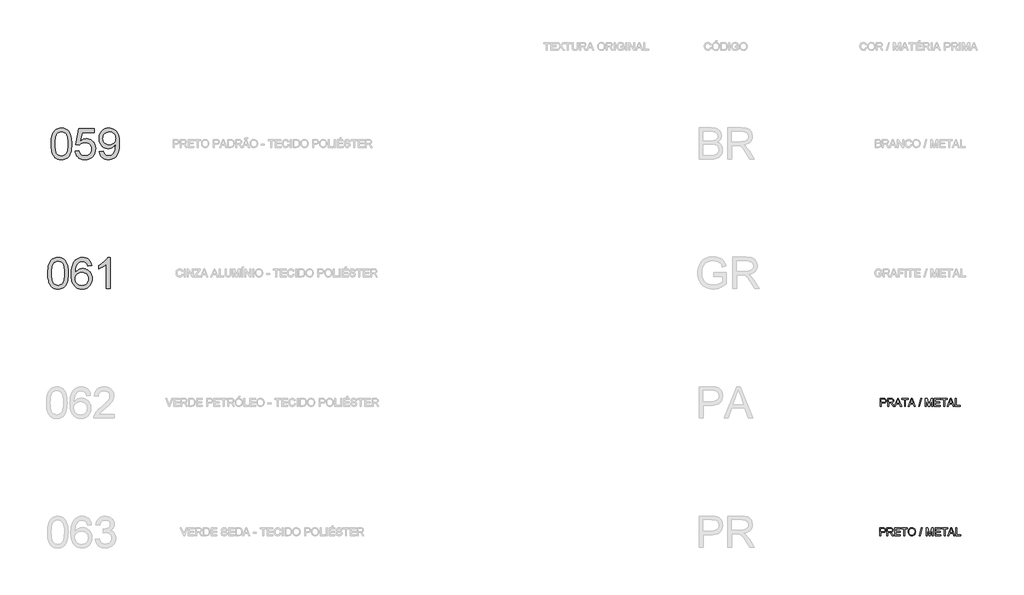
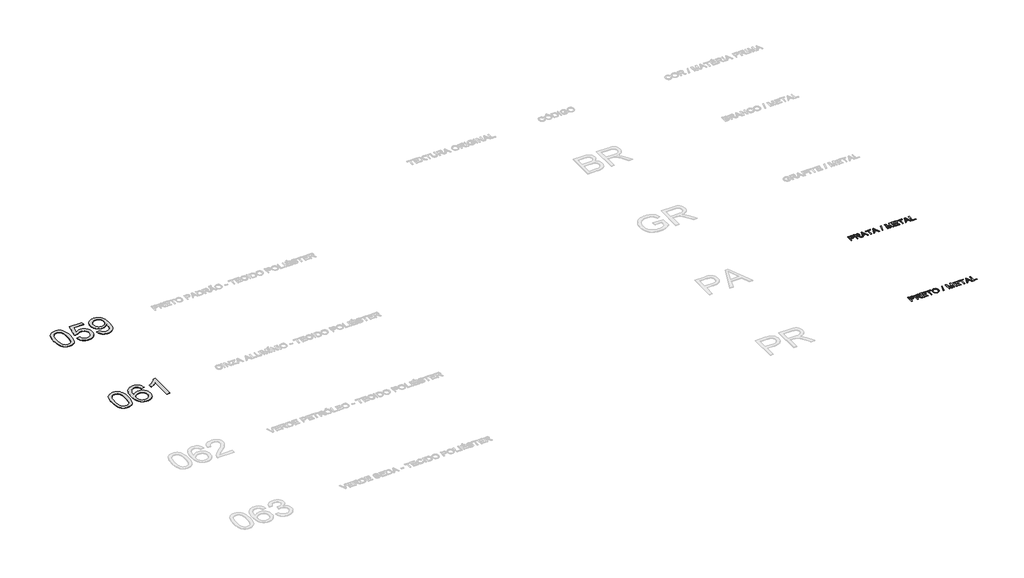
# One storey, part 43 of 67: 4 proxies.
"""IFC4 building model written with IfcOpenShell, lengths in millimetres."""

from ifc_helpers import new_model, si_unit, origin, origin_with_axes, place, context, project, spatial, polyline, outline, extrude, element, save

model = new_model("IFC4")

# Units and contexts
model_context = context("Model", 3, world=origin())
ifc_project = project(units=[si_unit("LENGTHUNIT", "METRE", prefix="MILLI")], contexts=[model_context])

# Site, building, storey
site = spatial("IfcSite", under=ifc_project)
building = spatial("IfcBuilding", under=site)
storey = spatial("IfcBuildingStorey", under=building, Name="Marelli - Linha COLAB - Planta Baixa", Elevation=0.0)

# Proxies
placement = place(None, origin())
element("IfcBuildingElementProxy", 1, Name="1200mm Arial", ObjectType="1200mm Arial", at=placement, inside=storey, context=model_context, shape_type="SweptSolid", body=[
    extrude(outline(polyline([(-134.0424838, -57395.792664), (-131.2741718, -57294.4319773), (-122.9692358, -57202.8385576), (-109.1276757, -57121.0124048), (-89.7494916, -57048.953519), (-64.9174569, -56986.073289), (-34.7143451, -56931.7831035), (0.8598438, -56886.0829627), (41.8051099, -56848.9728664), (88.2594088, -56820.2596767), (140.3606964, -56799.7502555), (198.1089726, -56787.4446027), (261.5042374, -56783.3427185), (309.1449558, -56785.7707396), (354.357653, -56793.0548031), (397.142329, -56805.194909), (437.4989839, -56822.1910572), (474.4527303, -56843.7581391), (507.028681, -56869.6110463), (535.2268359, -56899.7497788), (559.0471951, -56934.1743365), (579.685375, -56972.7467637), (598.3369922, -57015.3291046), (629.6805382, -57112.5235278), (641.6550971, -57169.6831928), (650.2083535, -57235.9479371), (655.3403073, -57311.3177609), (657.0509586, -57395.792664), (654.3102377, -57496.5095573), (646.0880752, -57587.6431245), (632.3844708, -57669.1933658), (613.1994248, -57741.1602811), (588.5605282, -57804.0681023), (558.4953721, -57858.4410612), (523.0039566, -57904.2791578), (482.0862817, -57941.5823921), (435.5768005, -57970.4887199), (383.309966, -57991.1360968), (325.2857783, -58003.524523), (261.5042374, -58007.6539984), (218.829926, -58005.8605737), (178.5100593, -58000.4802995), (140.5446374, -57991.5131759), (104.9336602, -57978.9592028), (71.6771279, -57962.8183803), (40.7750403, -57943.0907083), (12.2273975, -57919.7761868), (-13.9658006, -57892.8748159), (-42.1087732, -57850.2786794), (-66.4993495, -57802.0999336), (-87.1375294, -57748.3385785), (-104.023313, -57688.9946142), (-117.1567002, -57624.0680406), (-126.5376911, -57553.5588577), (-132.1662856, -57477.4670655), (-134.0424838, -57395.792664)]), holes=[polyline([(16.6419814, -57395.4983584), (21.0565653, -57526.4919399), (34.3003172, -57632.5247279), (44.233131, -57676.1808245), (56.3732369, -57713.5967226), (70.7206347, -57744.7724225), (87.2753245, -57769.7079239), (124.6521352, -57807.884878), (166.1492242, -57835.1541309), (211.7665916, -57851.5156826), (261.5042374, -57856.9695332), (311.2418831, -57851.4972885), (356.8592505, -57835.0805545), (398.3563396, -57807.7193311), (435.7331503, -57769.4136183), (452.2878401, -57744.418336), (466.6352379, -57713.2104465), (478.7753437, -57675.7899498), (488.7081576, -57632.1568459), (501.9519094, -57526.2528166), (506.3664934, -57395.4983584), (502.0990622, -57267.9720648), (489.2967688, -57163.8062779), (479.6950487, -57120.4835744), (467.9596131, -57083.0009976), (454.0904619, -57051.3585475), (438.0875951, -57025.5562241), (401.3361838, -56985.5122689), (359.3608481, -56956.9094438), (312.1615881, -56939.7477487), (259.7384038, -56934.0271837), (210.2582755, -56939.067167), (165.4134603, -56954.187117), (125.2039582, -56979.3870337), (89.6297692, -57014.666917), (72.5232565, -57043.2145599), (57.6976121, -57077.2068562), (45.152836, -57116.6438061), (34.8889284, -57161.5254095), (21.2037181, -57267.6225769), (16.6419814, -57395.4983584)])]), origin_with_axes(), (0.0, 0.0, 1.0), 10.0),
    extrude(outline(polyline([(788.8998657, -57668.6139517), (939.5843309, -57649.7783935), (950.84152, -57698.2192552), (967.2490569, -57740.2405761), (988.8069419, -57775.8423562), (1015.5151747, -57805.0245955), (1047.3185732, -57827.7505057), (1084.161955, -57843.9832988), (1126.0453202, -57853.7229746), (1172.9686686, -57856.9695332), (1230.3582599, -57852.4537817), (1280.9788224, -57838.9065272), (1324.8303563, -57816.3277698), (1361.9128614, -57784.7175093), (1391.3986033, -57745.6392444), (1412.4598475, -57700.6564734), (1425.096594, -57649.7691965), (1429.3088429, -57592.9774135), (1425.3633085, -57539.3034304), (1413.5267053, -57491.5891356), (1393.7990333, -57449.8345291), (1366.1802925, -57414.039611), (1330.5785124, -57385.3264213), (1286.9017225, -57364.817), (1235.1499229, -57352.5113473), (1175.3231134, -57348.4094631), (1137.0357948, -57350.0465379), (1102.224961, -57354.9577626), (1070.890612, -57363.143137), (1043.0327479, -57374.6026611), (995.7599116, -57404.6954083), (958.4198891, -57442.5872538), (807.7354238, -57423.7516957), (939.5843309, -56802.1782766), (1523.4866336, -56802.1782766), (1523.4866336, -56952.8627418), (1061.4268477, -56952.8627418), (996.9739222, -57284.8394543), (1050.1512646, -57246.7268796), (1104.6161939, -57219.503612), (1160.3687103, -57203.1696514), (1217.4088137, -57197.7249978), (1254.8477045, -57199.4126565), (1290.7920746, -57204.4756324), (1325.2419242, -57212.9139257), (1358.1972532, -57224.7275363), (1389.6580616, -57239.9164642), (1419.6243494, -57258.4807093), (1448.0961165, -57280.4202718), (1475.0733631, -57305.7351516), (1499.6639752, -57333.7033803), (1520.975839, -57363.6029895), (1539.0089546, -57395.4339791), (1553.7633219, -57429.1963492), (1565.2389408, -57464.8900998), (1573.4358115, -57502.5152308), (1578.353934, -57542.0717424), (1579.9933081, -57583.5596344), (1574.0888021, -57661.6241938), (1566.7081696, -57698.6147284), (1556.375284, -57734.2440996), (1543.0901455, -57768.5123075), (1526.8527539, -57801.4193519), (1507.6631093, -57832.965233), (1485.5212117, -57863.1499507), (1455.520435, -57897.0180869), (1422.9076962, -57926.3704716), (1387.6829951, -57951.2071048), (1349.8463319, -57971.5279865), (1309.3977066, -57987.3331167), (1266.337119, -57998.6224954), (1220.6645693, -58005.3961227), (1172.3800575, -58007.6539984), (1094.6190007, -58001.8506599), (1058.5596674, -57994.5964869), (1024.3811308, -57984.4406445), (992.0833909, -57971.383133), (961.6664477, -57955.4239522), (933.1303012, -57936.5631021), (906.4749513, -57914.8005828), (882.1372581, -57890.6422321), (860.5540813, -57864.5938875), (841.7254209, -57836.6555493), (825.651277, -57806.8272173), (812.3316495, -57775.1088915), (801.7665385, -57741.500572), (788.8998657, -57668.6139517)])), origin_with_axes(), (0.0, 0.0, 1.0), 10.0),
    extrude(outline(polyline([(1730.6777733, -57687.4495098), (1881.3622386, -57668.6139517), (1892.2147574, -57714.7923391), (1907.1139782, -57754.1465155), (1926.059901, -57786.676481), (1949.0525257, -57812.3822354), (1975.8343349, -57831.8891782), (2006.1478113, -57845.8227087), (2039.9929549, -57854.1828271), (2077.3697656, -57856.9695332), (2110.0468838, -57855.1761085), (2141.2708681, -57849.7958343), (2171.0417186, -57840.8287107), (2199.3594352, -57828.2747376), (2225.2215394, -57812.7225262), (2247.625553, -57794.7606878), (2266.5714757, -57774.3892223), (2282.0593077, -57751.6081298), (2308.1421412, -57694.8807261), (2331.3554951, -57620.6421395), (2347.6894556, -57535.4406694), (2353.1341092, -57445.8246154), (2352.2511924, -57416.3940558), (2328.1641187, -57449.9081055), (2300.0487373, -57480.1112173), (2267.9050479, -57507.0033912), (2231.7330508, -57530.5846271), (2192.7651504, -57549.7696731), (2152.2337516, -57563.4732774), (2110.1388543, -57571.69544), (2066.4804585, -57574.4361609), (2029.9704698, -57572.7622978), (1994.8998193, -57567.7407086), (1961.2685072, -57559.3713932), (1929.0765333, -57547.6543516), (1898.3238978, -57532.5895839), (1869.0106006, -57514.1770901), (1841.1366416, -57492.4168701), (1814.702021, -57467.3089239), (1790.594254, -57439.4648554), (1769.700856, -57409.4962684), (1752.0218268, -57377.4031628), (1737.5571666, -57343.1855387), (1726.3068754, -57306.8433961), (1718.270953, -57268.376735), (1713.4493996, -57227.7855554), (1711.8422152, -57185.0698572), (1713.5275746, -57140.9240178), (1718.5836527, -57098.9854703), (1727.0104497, -57059.2542149), (1738.8079654, -57021.7302513), (1753.9761999, -56986.4135798), (1772.5151532, -56953.3042002), (1794.4248253, -56922.4021126), (1819.7052162, -56893.707317), (1847.5239928, -56867.8406142), (1877.0488222, -56845.4228052), (1908.2797043, -56826.4538898), (1941.2166392, -56810.9338681), (1975.8596268, -56798.8627401), (2012.2086672, -56790.2405059), (2050.2637603, -56785.0671653), (2090.0249062, -56783.3427185), (2147.4788768, -56787.2790558), (2202.4128557, -56799.0880679), (2254.826843, -56818.7697546), (2304.7208386, -56846.324116), (2350.4301765, -56881.162541), (2390.2901907, -56922.6964182), (2424.3008811, -56970.9257478), (2452.4622479, -57025.8505297), (2474.5443646, -57090.634549), (2490.3173052, -57168.441591), (2499.7810695, -57259.2716556), (2502.9356576, -57363.1247429), (2499.7902665, -57472.1925574), (2490.3540934, -57569.5433304), (2474.6271381, -57655.1770618), (2452.6094007, -57729.0937517), (2424.3836546, -57793.0960218), (2390.0326733, -57848.9864939), (2349.5564568, -57896.765168), (2302.955005, -57936.4320442), (2251.1664172, -57967.5916491), (2195.1287922, -57989.8485099), (2134.8421303, -58003.2026263), (2070.3064313, -58007.6539984), (2002.6345383, -58002.4024829), (1941.4741566, -57986.6479365), (1886.8252862, -57960.3903591), (1838.6879271, -57923.6297507), (1798.2760899, -57877.3593928), (1766.8037853, -57822.5725666), (1744.2710131, -57759.2692723), (1730.6777733, -57687.4495098)]), holes=[polyline([(2352.2511924, -57181.53819), (2348.1860963, -57127.5331132), (2335.9908082, -57079.4141482), (2315.665328, -57037.1812951), (2287.2096556, -57000.834554), (2252.0217428, -56971.6063295), (2211.499541, -56950.7290263), (2165.6430503, -56938.2026443), (2114.4522707, -56934.0271837), (2061.6244162, -56938.5245411), (2013.7997568, -56952.0166133), (1970.9782926, -56974.5034002), (1933.1600235, -57005.984902), (1902.2579359, -57044.6217085), (1880.1850162, -57088.5744099), (1866.9412643, -57137.8430061), (1862.5266804, -57192.4274971), (1866.702141, -57241.3833936), (1879.228523, -57285.5384301), (1900.1058262, -57324.8926065), (1929.3340507, -57359.4459229), (1965.6991859, -57387.5796985), (2007.9872213, -57407.6752525), (2056.1981568, -57419.7325849), (2110.3319924, -57423.7516957), (2160.8145991, -57419.7325849), (2206.6067105, -57407.6752525), (2247.7083264, -57387.5796985), (2284.1194469, -57359.4459229), (2313.9270855, -57324.2120248), (2335.218256, -57282.8161033), (2347.9929583, -57235.2581584), (2352.2511924, -57181.53819)])]), origin_with_axes(), (0.0, 0.0, 1.0), 10.0),
])
element("IfcBuildingElementProxy", 2, Name="1200mm Arial", ObjectType="1200mm Arial", at=placement, inside=storey, context=model_context, shape_type="SweptSolid", body=[
    extrude(outline(polyline([(-265.8913909, -62395.792664), (-263.1230789, -62294.4319773), (-254.8181428, -62202.8385576), (-240.9765828, -62121.0124048), (-221.5983987, -62048.953519), (-196.766364, -61986.073289), (-166.5632522, -61931.7831035), (-130.9890633, -61886.0829627), (-90.0437972, -61848.9728664), (-43.5894983, -61820.2596767), (8.5117893, -61799.7502555), (66.2600655, -61787.4446027), (129.6553303, -61783.3427185), (177.2960487, -61785.7707396), (222.5087459, -61793.0548031), (265.2934219, -61805.194909), (305.6500768, -61822.1910572), (342.6038232, -61843.7581391), (375.1797739, -61869.6110463), (403.3779288, -61899.7497788), (427.198288, -61934.1743365), (447.836468, -61972.7467637), (466.4880851, -62015.3291046), (497.8316311, -62112.5235278), (509.80619, -62169.6831928), (518.3594464, -62235.9479371), (523.4914003, -62311.3177609), (525.2020515, -62395.792664), (522.4613307, -62496.5095573), (514.2391681, -62587.6431245), (500.5355638, -62669.1933658), (481.3505177, -62741.1602811), (456.7116211, -62804.0681023), (426.646465, -62858.4410612), (391.1550495, -62904.2791578), (350.2373746, -62941.5823921), (303.7278934, -62970.4887199), (251.4610589, -62991.1360968), (193.4368712, -63003.524523), (129.6553303, -63007.6539984), (86.9810189, -63005.8605737), (46.6611522, -63000.4802995), (8.6957303, -62991.5131759), (-26.9152468, -62978.9592028), (-60.1717792, -62962.8183803), (-91.0738668, -62943.0907083), (-119.6215096, -62919.7761868), (-145.8147077, -62892.8748159), (-173.9576803, -62850.2786794), (-198.3482566, -62802.0999336), (-218.9864365, -62748.3385785), (-235.8722201, -62688.9946142), (-249.0056073, -62624.0680406), (-258.3865982, -62553.5588577), (-264.0151927, -62477.4670655), (-265.8913909, -62395.792664)]), holes=[polyline([(-115.2069257, -62395.4983584), (-110.7923417, -62526.4919399), (-97.5485899, -62632.5247279), (-87.615776, -62676.1808245), (-75.4756702, -62713.5967226), (-61.1282724, -62744.7724225), (-44.5735826, -62769.7079239), (-7.1967719, -62807.884878), (34.3003172, -62835.1541309), (79.9176846, -62851.5156826), (129.6553303, -62856.9695332), (179.3929761, -62851.4972885), (225.0103435, -62835.0805545), (266.5074325, -62807.7193311), (303.8842432, -62769.4136183), (320.438933, -62744.418336), (334.7863308, -62713.2104465), (346.9264367, -62675.7899498), (356.8592505, -62632.1568459), (370.1030024, -62526.2528166), (374.5175863, -62395.4983584), (370.2501552, -62267.9720648), (357.4478617, -62163.8062779), (347.8461417, -62120.4835744), (336.110706, -62083.0009976), (322.2415548, -62051.3585475), (306.238688, -62025.5562241), (269.4872767, -61985.5122689), (227.511941, -61956.9094438), (180.3126811, -61939.7477487), (127.8894967, -61934.0271837), (78.4093684, -61939.067167), (33.5645532, -61954.187117), (-6.6449489, -61979.3870337), (-42.2191378, -62014.666917), (-59.3256506, -62043.2145599), (-74.151295, -62077.2068562), (-86.696071, -62116.6438061), (-96.9599787, -62161.5254095), (-110.6451889, -62267.6225769), (-115.2069257, -62395.4983584)])]), origin_with_axes(), (0.0, 0.0, 1.0), 10.0),
    extrude(outline(polyline([(1429.3088429, -62103.5472071), (1278.6243777, -62122.3827652), (1267.5511296, -62082.0812927), (1254.344166, -62047.7027202), (1239.0034868, -62019.2470479), (1221.529092, -61996.7142757), (1189.1370823, -61969.2886729), (1153.1766173, -61949.6989567), (1113.6476969, -61937.9451269), (1070.5503212, -61934.0271837), (1035.0129205, -61936.3080521), (1000.5055893, -61943.1506572), (967.0283277, -61954.554999), (934.5811358, -61970.5210776), (904.9758322, -61996.6315022), (877.9640967, -62028.1681863), (853.5459293, -62065.1311297), (831.7213299, -62107.5203326), (813.6491269, -62158.1316981), (800.4881485, -62219.7611293), (792.2383948, -62292.4086263), (788.8998657, -62376.0741891), (817.6222525, -62338.2099347), (849.3428775, -62305.5512106), (884.0617408, -62278.0980167), (921.7788423, -62255.8503531), (961.4825067, -62238.6610669), (1002.1610583, -62226.3830053), (1043.8144972, -62219.0161683), (1086.4428234, -62216.560556), (1123.3413875, -62218.2390176), (1158.842, -62223.2744024), (1192.944661, -62231.6667104), (1225.6493704, -62243.4159416), (1256.9561281, -62258.5220961), (1286.8649343, -62276.9851737), (1315.375789, -62298.8051745), (1342.488692, -62323.9820986), (1367.2517488, -62351.81697), (1388.7130647, -62381.6108131), (1406.8726397, -62413.3636278), (1421.7304738, -62447.0754142), (1433.286567, -62482.7461721), (1441.5409192, -62520.3759017), (1446.4935306, -62559.9646029), (1448.144401, -62601.5122757), (1445.0357982, -62656.4462547), (1435.7099896, -62709.4120649), (1420.1669753, -62760.4097065), (1398.4067553, -62809.4391794), (1371.2018817, -62854.6702707), (1339.3249069, -62894.2727675), (1302.7758306, -62928.2466698), (1261.5546531, -62956.5919775), (1216.544291, -62978.9316116), (1168.6276611, -62994.8884932), (1117.8047635, -63004.4626221), (1064.0755981, -63007.6539984), (1018.0742538, -63005.5386769), (974.2480119, -62999.1927125), (932.5968723, -62988.6161052), (893.1208349, -62973.8088549), (855.8198999, -62954.7709616), (820.6940671, -62931.5024254), (787.7433367, -62904.0032463), (756.9677085, -62872.2734242), (729.1351363, -62835.6875598), (705.0135737, -62793.6202536), (684.6030208, -62746.0715057), (667.9034775, -62693.0413161), (654.9149438, -62634.5296848), (645.6374197, -62570.5366117), (640.0709053, -62501.062097), (638.2154005, -62426.1061404), (640.2755396, -62342.1784618), (646.4559571, -62264.1828803), (656.756653, -62192.1193959), (671.1776272, -62125.9880088), (689.7188798, -62065.7887188), (712.3804107, -62011.521526), (739.1622199, -61963.1864303), (770.0643075, -61920.7834319), (800.0788798, -61888.5707647), (832.5858526, -61860.6531198), (867.5852259, -61837.0304971), (905.0769998, -61817.7028968), (945.0611741, -61802.6703188), (987.537749, -61791.9327631), (1032.5067244, -61785.4902296), (1079.9681003, -61783.3427185), (1149.3690387, -61788.6586133), (1212.1848893, -61804.6062978), (1268.4156523, -61831.1857719), (1318.0613275, -61868.3970358), (1359.7791458, -61914.9892904), (1392.2263378, -61969.7117372), (1415.4029035, -62032.5643761), (1429.3088429, -62103.5472071)]), holes=[polyline([(788.8998657, -62599.157831), (791.0795665, -62632.9202011), (797.618669, -62665.9284131), (808.5171731, -62698.182467), (823.7750788, -62729.6823629), (842.6474252, -62758.9473756), (864.3892511, -62784.4967801), (889.0005566, -62806.3305766), (916.4813416, -62824.4487648), (946.6568623, -62838.676601), (979.3523746, -62848.8393411), (1014.5678786, -62854.9369852), (1052.3033742, -62856.9695332), (1104.6805733, -62852.7572843), (1151.7418775, -62840.1205378), (1193.4872869, -62819.0592936), (1229.9168015, -62789.5735517), (1259.4669228, -62752.8589286), (1280.5741522, -62710.1110407), (1293.2384899, -62661.3298882), (1297.4599358, -62606.5154709), (1293.2936722, -62553.8439662), (1280.7948814, -62507.0769676), (1259.9635635, -62466.214475), (1230.7997183, -62431.2564884), (1194.2598391, -62403.2514715), (1151.3004191, -62383.247888), (1101.9214583, -62371.2457379), (1046.1229567, -62367.2450212), (994.4447334, -62371.2457379), (946.8316062, -62383.247888), (903.283575, -62403.2514715), (863.8006399, -62431.2564884), (831.0315512, -62465.7546225), (807.6250592, -62505.2375576), (793.5811641, -62549.7052938), (788.8998657, -62599.157831)])]), origin_with_axes(), (0.0, 0.0, 1.0), 10.0),
    extrude(outline(polyline([(2145.0600527, -62988.8184403), (1994.3755875, -62988.8184403), (1994.3755875, -62049.3949774), (1931.4677663, -62100.2730573), (1851.6373733, -62151.0775608), (1767.8338548, -62195.4809177), (1693.006657, -62227.1555575), (1693.006657, -62084.7116489), (1754.1578417, -62054.0486846), (1811.3542949, -62020.3322998), (1864.5960166, -61983.5624943), (1913.8830069, -61943.7392684), (1957.7437378, -61902.7020318), (1994.7066813, -61862.2901946), (2024.7718373, -61822.5037569), (2047.939206, -61783.3427185), (2145.0600527, -61783.3427185), (2145.0600527, -62988.8184403)])), origin_with_axes(), (0.0, 0.0, 1.0), 10.0),
])
element("IfcBuildingElementProxy", 3, Name="300mm Arial", ObjectType="300mm Arial", at=placement, inside=storey, context=model_context, shape_type="SweptSolid", body=[
    extrude(outline(polyline([(31871.5241147, -67530.5663201), (31871.5241147, -67229.1973896), (31983.2130884, -67229.1973896), (32028.2418446, -67232.0668692), (32048.3190045, -67237.4287493), (32064.8461031, -67246.1567496), (32078.1542343, -67258.6463433), (32088.5744918, -67275.2930036), (32095.3067323, -67294.9287051), (32097.5508125, -67316.3854225), (32096.0355985, -67334.8852883), (32091.4899566, -67351.9044291), (32083.9138868, -67367.4428449), (32073.307389, -67381.5005356), (32058.7461598, -67393.1531978), (32039.3058956, -67401.476528), (32014.9865965, -67406.470526), (31985.7882624, -67408.1351921), (31909.195231, -67408.1351921), (31909.195231, -67530.5663201), (31871.5241147, -67530.5663201)]), holes=[polyline([(31909.195231, -67370.4640758), (31987.9955543, -67370.4640758), (32021.3992395, -67367.005985), (32043.4721592, -67356.6317127), (32055.7778119, -67339.9850525), (32059.8796962, -67317.7097977), (32057.4608721, -67300.7872259), (32050.2043997, -67286.5134045), (32039.01159, -67275.7712502), (32024.7837539, -67269.4436799), (31987.1126375, -67266.8685059), (31909.195231, -67266.8685059), (31909.195231, -67370.4640758)])]), origin_with_axes(), (0.0, 0.0, 1.0), 10.0),
    extrude(outline(polyline([(32149.3485974, -67530.5663201), (32149.3485974, -67229.1973896), (32279.2109417, -67229.1973896), (32314.113746, -67231.2299376), (32339.5068007, -67237.3275817), (32358.0664474, -67248.5847708), (32372.4690275, -67266.0959537), (32381.7120626, -67287.8101885), (32384.7930743, -67311.6765329), (32379.6887116, -67341.3646099), (32364.3756236, -67365.9759154), (32352.7758444, -67376.0052983), (32338.3939577, -67384.0205273), (32301.2838614, -67394.0085235), (32322.6945935, -67410.1217548), (32353.2287991, -67448.8965171), (32403.4814797, -67530.5663201), (32359.7035223, -67530.5663201), (32320.4873016, -67468.0999573), (32292.1603879, -67426.750021), (32272.257972, -67407.2154871), (32254.3421188, -67400.0417882), (32232.4899283, -67398.717413), (32187.0197137, -67398.717413), (32187.0197137, -67530.5663201), (32149.3485974, -67530.5663201)]), holes=[polyline([(32187.0197137, -67361.0462967), (32271.338267, -67361.0462967), (32295.5540994, -67359.7127245), (32314.3436723, -67355.7120078), (32328.488735, -67348.7774322), (32338.7710367, -67338.6422832), (32345.0342277, -67326.3826157), (32347.121958, -67313.0744845), (32343.1396354, -67294.6987789), (32331.1926676, -67279.8915286), (32310.6372612, -67270.1242616), (32280.8296225, -67266.8685059), (32187.0197137, -67266.8685059), (32187.0197137, -67361.0462967)])]), origin_with_axes(), (0.0, 0.0, 1.0), 10.0),
    extrude(outline(polyline([(32415.6215855, -67530.5663201), (32535.918998, -67229.1973896), (32567.9983079, -67229.1973896), (32688.2957204, -67530.5663201), (32648.4908885, -67530.5663201), (32613.9835573, -67436.3885293), (32489.8601722, -67436.3885293), (32455.4264174, -67530.5663201), (32415.6215855, -67530.5663201)]), holes=[polyline([(32503.6925352, -67398.717413), (32600.2247707, -67398.717413), (32573.0750795, -67324.6259792), (32551.9586529, -67266.8685059), (32533.1966712, -67318.1512561), (32503.6925352, -67398.717413)])]), origin_with_axes(), (0.0, 0.0, 1.0), 10.0),
    extrude(outline(polyline([(32803.8842432, -67530.5663201), (32803.8842432, -67266.8685059), (32704.9975629, -67266.8685059), (32704.9975629, -67229.1973896), (32940.4420398, -67229.1973896), (32940.4420398, -67266.8685059), (32841.5553595, -67266.8685059), (32841.5553595, -67530.5663201), (32803.8842432, -67530.5663201)])), origin_with_axes(), (0.0, 0.0, 1.0), 10.0),
    extrude(outline(polyline([(32947.7261034, -67530.5663201), (33068.0235158, -67229.1973896), (33100.1028258, -67229.1973896), (33220.4002382, -67530.5663201), (33180.5954063, -67530.5663201), (33146.0880752, -67436.3885293), (33021.96469, -67436.3885293), (32987.5309352, -67530.5663201), (32947.7261034, -67530.5663201)]), holes=[polyline([(33035.797053, -67398.717413), (33132.3292885, -67398.717413), (33105.1795973, -67324.6259792), (33084.0631708, -67266.8685059), (33065.301189, -67318.1512561), (33035.797053, -67398.717413)])]), origin_with_axes(), (0.0, 0.0, 1.0), 10.0),
    extrude(outline(polyline([(33345.4065401, -67530.5663201), (33430.1665518, -67229.1973896), (33464.1588482, -67229.1973896), (33379.3988365, -67530.5663201), (33345.4065401, -67530.5663201)])), origin_with_axes(), (0.0, 0.0, 1.0), 10.0),
    extrude(outline(polyline([(33613.8132438, -67530.5663201), (33613.8132438, -67229.1973896), (33678.6340514, -67229.1973896), (33740.2910738, -67441.6124536), (33752.7254852, -67485.9790223), (33766.1899662, -67437.9336337), (33826.816919, -67229.1973896), (33891.6377266, -67229.1973896), (33891.6377266, -67530.5663201), (33853.9666103, -67530.5663201), (33853.9666103, -67266.8685059), (33778.2564957, -67530.5663201), (33727.1944747, -67530.5663201), (33651.4843601, -67266.8685059), (33651.4843601, -67530.5663201), (33613.8132438, -67530.5663201)])), origin_with_axes(), (0.0, 0.0, 1.0), 10.0),
    extrude(outline(polyline([(33957.5621801, -67530.5663201), (33957.5621801, -67229.1973896), (34174.1710989, -67229.1973896), (34174.1710989, -67266.8685059), (33995.2332964, -67266.8685059), (33995.2332964, -67356.3374072), (34164.7533198, -67356.3374072), (34164.7533198, -67394.0085235), (33995.2332964, -67394.0085235), (33995.2332964, -67492.8952038), (34178.8799884, -67492.8952038), (34178.8799884, -67530.5663201), (33957.5621801, -67530.5663201)])), origin_with_axes(), (0.0, 0.0, 1.0), 10.0),
    extrude(outline(polyline([(34310.7288955, -67530.5663201), (34310.7288955, -67266.8685059), (34211.8422152, -67266.8685059), (34211.8422152, -67229.1973896), (34447.2866921, -67229.1973896), (34447.2866921, -67266.8685059), (34348.4000118, -67266.8685059), (34348.4000118, -67530.5663201), (34310.7288955, -67530.5663201)])), origin_with_axes(), (0.0, 0.0, 1.0), 10.0),
    extrude(outline(polyline([(34454.5707556, -67530.5663201), (34574.868168, -67229.1973896), (34606.947478, -67229.1973896), (34727.2448904, -67530.5663201), (34687.4400585, -67530.5663201), (34652.9327274, -67436.3885293), (34528.8093422, -67436.3885293), (34494.3755875, -67530.5663201), (34454.5707556, -67530.5663201)]), holes=[polyline([(34542.6417052, -67398.717413), (34639.1739408, -67398.717413), (34612.0242495, -67324.6259792), (34590.907823, -67266.8685059), (34572.1458413, -67318.1512561), (34542.6417052, -67398.717413)])]), origin_with_axes(), (0.0, 0.0, 1.0), 10.0),
    extrude(outline(polyline([(34767.4911807, -67530.5663201), (34767.4911807, -67229.1973896), (34805.162297, -67229.1973896), (34805.162297, -67492.8952038), (34955.8467622, -67492.8952038), (34955.8467622, -67530.5663201), (34767.4911807, -67530.5663201)])), origin_with_axes(), (0.0, 0.0, 1.0), 10.0),
])
element("IfcBuildingElementProxy", 4, Name="300mm Arial", ObjectType="300mm Arial", at=placement, inside=storey, context=model_context, shape_type="SweptSolid", body=[
    extrude(outline(polyline([(31847.979667, -72530.5663201), (31847.979667, -72229.1973896), (31959.6686407, -72229.1973896), (32004.6973969, -72232.0668692), (32024.7745568, -72237.4287493), (32041.3016554, -72246.1567496), (32054.6097866, -72258.6463433), (32065.0300441, -72275.2930036), (32071.7622846, -72294.9287051), (32074.0063648, -72316.3854225), (32072.4911508, -72334.8852883), (32067.9455089, -72351.9044291), (32060.3694391, -72367.4428449), (32049.7629413, -72381.5005356), (32035.2017121, -72393.1531978), (32015.7614479, -72401.476528), (31991.4421488, -72406.470526), (31962.2438147, -72408.1351921), (31885.6507833, -72408.1351921), (31885.6507833, -72530.5663201), (31847.979667, -72530.5663201)]), holes=[polyline([(31885.6507833, -72370.4640758), (31964.4511066, -72370.4640758), (31997.8547918, -72367.005985), (32019.9277115, -72356.6317127), (32032.2333643, -72339.9850525), (32036.3352485, -72317.7097977), (32033.9164244, -72300.7872259), (32026.659952, -72286.5134045), (32015.4671423, -72275.7712502), (32001.2393062, -72269.4436799), (31963.5681899, -72266.8685059), (31885.6507833, -72266.8685059), (31885.6507833, -72370.4640758)])]), origin_with_axes(), (0.0, 0.0, 1.0), 10.0),
    extrude(outline(polyline([(32125.8041497, -72530.5663201), (32125.8041497, -72229.1973896), (32255.666494, -72229.1973896), (32290.5692983, -72231.2299376), (32315.962353, -72237.3275817), (32334.5219997, -72248.5847708), (32348.9245798, -72266.0959537), (32358.1676149, -72287.8101885), (32361.2486266, -72311.6765329), (32356.144264, -72341.3646099), (32340.8311759, -72365.9759154), (32329.2313967, -72376.0052983), (32314.84951, -72384.0205273), (32277.7394137, -72394.0085235), (32299.1501459, -72410.1217548), (32329.6843515, -72448.8965171), (32379.937032, -72530.5663201), (32336.1590746, -72530.5663201), (32296.9428539, -72468.0999573), (32268.6159403, -72426.750021), (32248.7135243, -72407.2154871), (32230.7976712, -72400.0417882), (32208.9454806, -72398.717413), (32163.475266, -72398.717413), (32163.475266, -72530.5663201), (32125.8041497, -72530.5663201)]), holes=[polyline([(32163.475266, -72361.0462967), (32247.7938193, -72361.0462967), (32272.0096517, -72359.7127245), (32290.7992246, -72355.7120078), (32304.9442873, -72348.7774322), (32315.226589, -72338.6422832), (32321.48978, -72326.3826157), (32323.5775103, -72313.0744845), (32319.5951877, -72294.6987789), (32307.6482199, -72279.8915286), (32287.0928135, -72270.1242616), (32257.2851748, -72266.8685059), (32163.475266, -72266.8685059), (32163.475266, -72361.0462967)])]), origin_with_axes(), (0.0, 0.0, 1.0), 10.0),
    extrude(outline(polyline([(32427.1730802, -72530.5663201), (32427.1730802, -72229.1973896), (32643.7819989, -72229.1973896), (32643.7819989, -72266.8685059), (32464.8441965, -72266.8685059), (32464.8441965, -72356.3374072), (32634.3642199, -72356.3374072), (32634.3642199, -72394.0085235), (32464.8441965, -72394.0085235), (32464.8441965, -72492.8952038), (32648.4908885, -72492.8952038), (32648.4908885, -72530.5663201), (32427.1730802, -72530.5663201)])), origin_with_axes(), (0.0, 0.0, 1.0), 10.0),
    extrude(outline(polyline([(32780.3397955, -72530.5663201), (32780.3397955, -72266.8685059), (32681.4531152, -72266.8685059), (32681.4531152, -72229.1973896), (32916.8975922, -72229.1973896), (32916.8975922, -72266.8685059), (32818.0109119, -72266.8685059), (32818.0109119, -72530.5663201), (32780.3397955, -72530.5663201)])), origin_with_axes(), (0.0, 0.0, 1.0), 10.0),
    extrude(outline(polyline([(32945.1509294, -72383.8549804), (32947.661724, -72348.5061192), (32955.1941079, -72317.213157), (32967.7480809, -72289.9760937), (32985.3236433, -72266.7949295), (33006.8677326, -72248.2858666), (33031.3272868, -72235.0651074), (33058.7023057, -72227.1326519), (33088.9927895, -72224.4885001), (33128.5217099, -72229.454907), (33163.9671401, -72244.3541278), (33193.3976997, -72268.1376988), (33214.8820082, -72299.7571563), (33228.0153955, -72337.68579), (33232.3931912, -72380.3968896), (33227.7854692, -72423.6782064), (33213.9623033, -72462.140269), (33191.6870485, -72493.8149088), (33161.7230599, -72516.733957), (33126.5811324, -72530.6398965), (33088.7720603, -72535.2752096), (33048.6361346, -72530.1524528), (33012.9883693, -72514.7841825), (32983.6313861, -72490.5591531), (32962.3678068, -72458.8661192), (32949.4551487, -72422.3998164), (32945.1509294, -72383.8549804)]), holes=[polyline([(32982.8220457, -72384.2228624), (32984.7051417, -72409.1974513), (32990.3544295, -72431.3669401), (32999.7699094, -72450.7313286), (33012.9515811, -72467.2906169), (33028.9751412, -72480.5527628), (33046.9162863, -72490.0257242), (33066.7750163, -72495.709501), (33088.5513311, -72497.6040933), (33110.7001265, -72495.6911069), (33130.7933812, -72489.9521478), (33148.8310953, -72480.3872159), (33164.8132687, -72466.9963113), (33177.8983714, -72450.0875351), (33187.2448734, -72429.9689885), (33192.8527745, -72406.6406715), (33194.7220749, -72380.102584), (33191.5215016, -72346.7540812), (33181.9197815, -72317.9305269), (33166.165235, -72294.358488), (33144.5061826, -72276.7645316), (33118.3773639, -72265.8108452), (33089.2135187, -72262.1596164), (33068.1936612, -72263.9185522), (33048.6913169, -72269.1953595), (33030.7064859, -72277.9900385), (33014.2391681, -72290.302589), (33000.494177, -72306.7262208), (32990.6763263, -72327.8541437), (32984.7856158, -72353.6863575), (32982.8220457, -72384.2228624)])]), origin_with_axes(), (0.0, 0.0, 1.0), 10.0),
    extrude(outline(polyline([(33368.9509878, -72530.5663201), (33453.7109995, -72229.1973896), (33487.7032959, -72229.1973896), (33402.9432842, -72530.5663201), (33368.9509878, -72530.5663201)])), origin_with_axes(), (0.0, 0.0, 1.0), 10.0),
    extrude(outline(polyline([(33637.3576915, -72530.5663201), (33637.3576915, -72229.1973896), (33702.1784991, -72229.1973896), (33763.8355215, -72441.6124536), (33776.2699329, -72485.9790223), (33789.7344139, -72437.9336337), (33850.3613667, -72229.1973896), (33915.1821743, -72229.1973896), (33915.1821743, -72530.5663201), (33877.511058, -72530.5663201), (33877.511058, -72266.8685059), (33801.8009434, -72530.5663201), (33750.7389224, -72530.5663201), (33675.0288078, -72266.8685059), (33675.0288078, -72530.5663201), (33637.3576915, -72530.5663201)])), origin_with_axes(), (0.0, 0.0, 1.0), 10.0),
    extrude(outline(polyline([(33981.1066278, -72530.5663201), (33981.1066278, -72229.1973896), (34197.7155466, -72229.1973896), (34197.7155466, -72266.8685059), (34018.7777441, -72266.8685059), (34018.7777441, -72356.3374072), (34188.2977675, -72356.3374072), (34188.2977675, -72394.0085235), (34018.7777441, -72394.0085235), (34018.7777441, -72492.8952038), (34202.4244361, -72492.8952038), (34202.4244361, -72530.5663201), (33981.1066278, -72530.5663201)])), origin_with_axes(), (0.0, 0.0, 1.0), 10.0),
    extrude(outline(polyline([(34334.2733432, -72530.5663201), (34334.2733432, -72266.8685059), (34235.3866629, -72266.8685059), (34235.3866629, -72229.1973896), (34470.8311398, -72229.1973896), (34470.8311398, -72266.8685059), (34371.9444595, -72266.8685059), (34371.9444595, -72530.5663201), (34334.2733432, -72530.5663201)])), origin_with_axes(), (0.0, 0.0, 1.0), 10.0),
    extrude(outline(polyline([(34478.1152033, -72530.5663201), (34598.4126157, -72229.1973896), (34630.4919257, -72229.1973896), (34750.7893381, -72530.5663201), (34710.9845062, -72530.5663201), (34676.4771751, -72436.3885293), (34552.3537899, -72436.3885293), (34517.9200352, -72530.5663201), (34478.1152033, -72530.5663201)]), holes=[polyline([(34566.1861529, -72398.717413), (34662.7183885, -72398.717413), (34635.5686972, -72324.6259792), (34614.4522707, -72266.8685059), (34595.6902889, -72318.1512561), (34566.1861529, -72398.717413)])]), origin_with_axes(), (0.0, 0.0, 1.0), 10.0),
    extrude(outline(polyline([(34791.0356284, -72530.5663201), (34791.0356284, -72229.1973896), (34828.7067447, -72229.1973896), (34828.7067447, -72492.8952038), (34979.3912099, -72492.8952038), (34979.3912099, -72530.5663201), (34791.0356284, -72530.5663201)])), origin_with_axes(), (0.0, 0.0, 1.0), 10.0),
])

save(model, "model.ifc")
